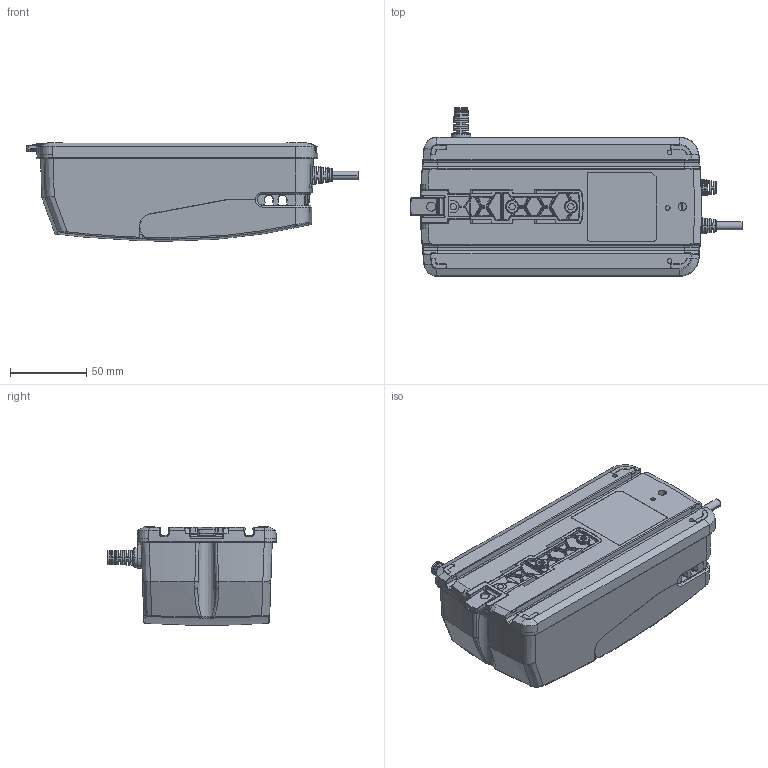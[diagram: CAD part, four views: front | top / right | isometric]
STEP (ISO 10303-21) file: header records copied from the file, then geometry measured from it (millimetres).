
FILE_DESCRIPTION((''),'2;1');
FILE_NAME('1047W4001_ASM','2020-06-19T11:05:44',('cnjd'),(''),'CREO PARAMETRIC BY PTC INC, 2019344','CREO PARAMETRIC BY PTC INC, 2019344','');
FILE_SCHEMA(('CONFIG_CONTROL_DESIGN','SHAPE_APPEARANCE_LAYERS_GROUPS'));
Products named in the file (6): 1047W4001-BP; 1047W4001-LOCK; 1047W4001-CABLE; 1047W4001-BRACKET; 1047W4001-BRACKET2; 1047W4001_ASM
Assembly tree (5 placements, depth 2):
  1047W4001_ASM
    1047W4001-BP
    1047W4001-LOCK
    1047W4001-CABLE
    1047W4001-BRACKET
    1047W4001-BRACKET2
Bounding box: 217.33 x 110.37 x 64.49 mm (x, y, z)
Volume: 753909.1 mm3; surface area: 142103.6 mm2
Topology: 13 solids, 34 shells, 5728 faces, 14405 edges, 8838 vertices
Faces by surface type: plane 2387, cylinder 1230, bspline 896, torus 651, cone 361, sphere 133, extrusion 64, revolution 6
Entity records: 233398 total; most frequent: CARTESIAN_POINT 87770, ORIENTED_EDGE 28778, DIRECTION 23694, EDGE_CURVE 14389, VERTEX_POINT 8838, AXIS2_PLACEMENT_3D 8459, VECTOR 6770, LINE 6706
